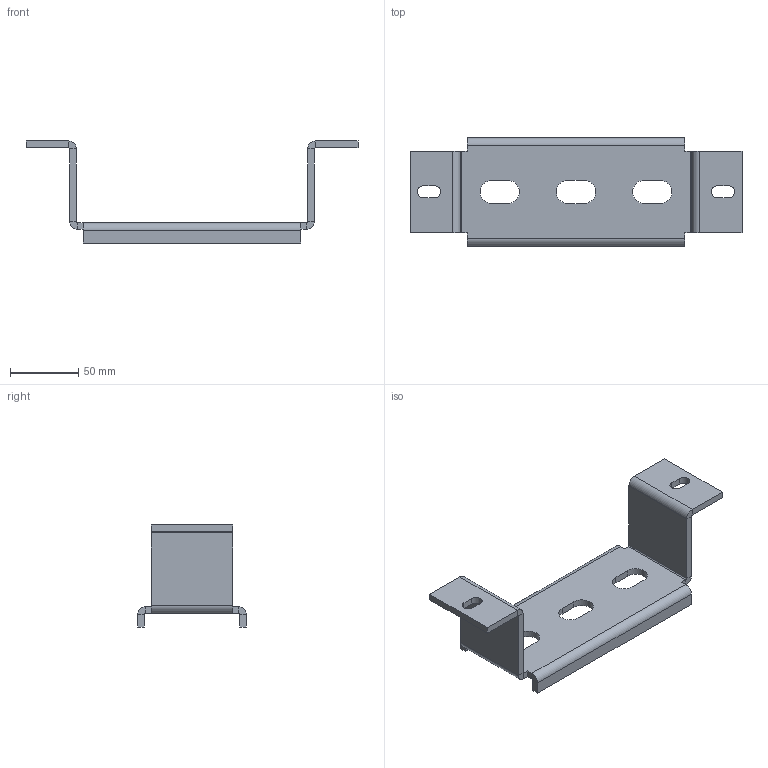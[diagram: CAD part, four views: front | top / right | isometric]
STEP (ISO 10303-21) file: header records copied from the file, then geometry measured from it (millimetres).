
FILE_DESCRIPTION(/* description */ ('Deckenkonsole Nr. 1+2, 3-fach'),/* implementation_level */ '2;1');
FILE_NAME(/* name */ 'Q:\sge-ma\Produktmanagement-STB\STB\Workspace\TraceParts\Deckenkonsole\010335813.stp',/* time_stamp */ '2018-02-20T13:39:32+01:00',/* author */ ('avschreier'),/* organization */ (''),/* preprocessor_version */ 'ST-DEVELOPER v16.1',/* originating_system */ 'Autodesk Inventor 2016',/* authorisation */ '');
FILE_SCHEMA (('CONFIG_CONTROL_DESIGN'));
Length unit declared in the file: millimetre
Products named in the file (1): 010335813
Bounding box: 244 x 80 x 75 mm (x, y, z)
Volume: 129413.3 mm3; surface area: 57924.2 mm2
Topology: 1 solids, 1 shells, 82 faces, 192 edges, 112 vertices
Faces by surface type: plane 60, cylinder 22
Entity records: 2320 total; most frequent: DIRECTION 402, CARTESIAN_POINT 387, ORIENTED_EDGE 384, EDGE_CURVE 192, LINE 148, VECTOR 148, AXIS2_PLACEMENT_3D 127, VERTEX_POINT 112
